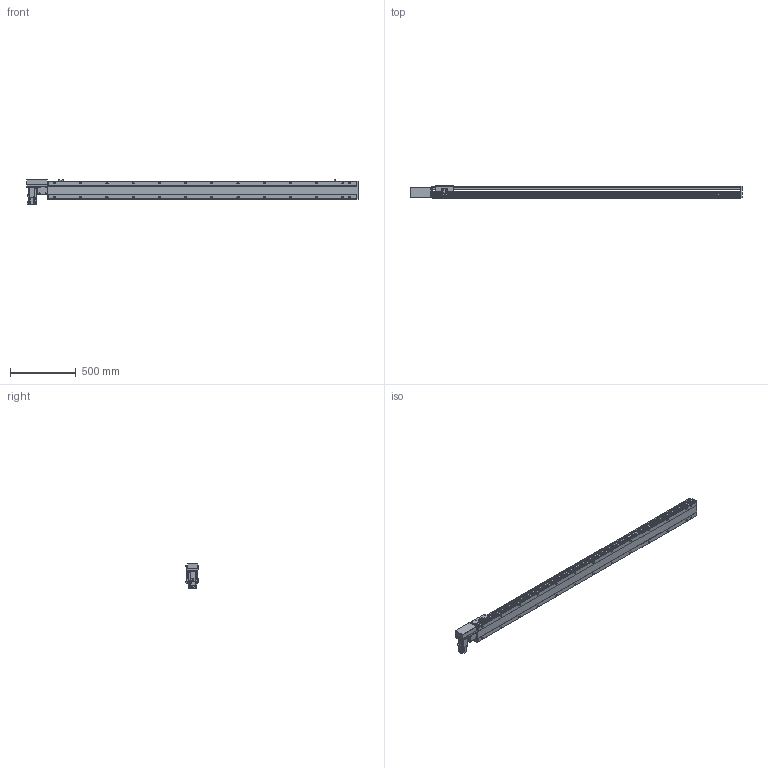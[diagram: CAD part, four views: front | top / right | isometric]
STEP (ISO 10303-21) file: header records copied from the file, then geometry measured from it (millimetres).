
FILE_DESCRIPTION(/* description */ ('STEP AP214'),/* implementation_level */ '2;1');
FILE_NAME(/* name */ 'PBS140S-P40-S2100-R-T40-C1-N(0)',/* time_stamp */ '2022-06-09T02:18:33+02:00',/* author */ ('License CC BY-ND 4.0'),/* organization */ ('CADENAS'),/* preprocessor_version */ 'ST-DEVELOPER v18.102',/* originating_system */ 'PARTsolutions',/* authorisation */ ' ');
FILE_SCHEMA (('AUTOMOTIVE_DESIGN {1 0 10303 214 3 1 1}'));
Length unit declared in the file: millimetre
Products named in the file (7): PBS140S-P40-S2100-R-T40-C1-N(0); PBS140S_sensor; PBS140S_plant; PBS140S_sliser; T40-p1; PBS140ST-R_motors; PBS140S-S2100()_body
Assembly tree (8 placements, depth 2):
  PBS140S-P40-S2100-R-T40-C1-N(0)
    PBS140S_sensor  x3
    PBS140S_plant
    PBS140S_sliser
    T40-p1
    PBS140ST-R_motors
    PBS140S-S2100()_body
Bounding box: 2533 x 93 x 189.7 mm (x, y, z)
Volume: 12046911.1 mm3; surface area: 2039446.8 mm2
Topology: 8 solids, 8 shells, 1179 faces, 3111 edges, 2035 vertices
Faces by surface type: plane 732, cylinder 385, cone 52, sphere 8, torus 2
Full cylindrical faces by diameter (mm): 3.242 x4, 4 x2, 4.134 x4, 4.4 x8, 4.5 x2, 4.8 x4, 4.917 x34, 5.5 x7, 6 x2, 7 x28, 7.5 x8, 8 x12, 8.5 x4, 10.5 x26, 14 x1, 30 x2, 50 x2
Entity records: 33786 total; most frequent: CARTESIAN_POINT 6376, DIRECTION 5698, ORIENTED_EDGE 5362, EDGE_CURVE 2681, AXIS2_PLACEMENT_3D 2009, VERTEX_POINT 1873, LINE 1680, VECTOR 1680
